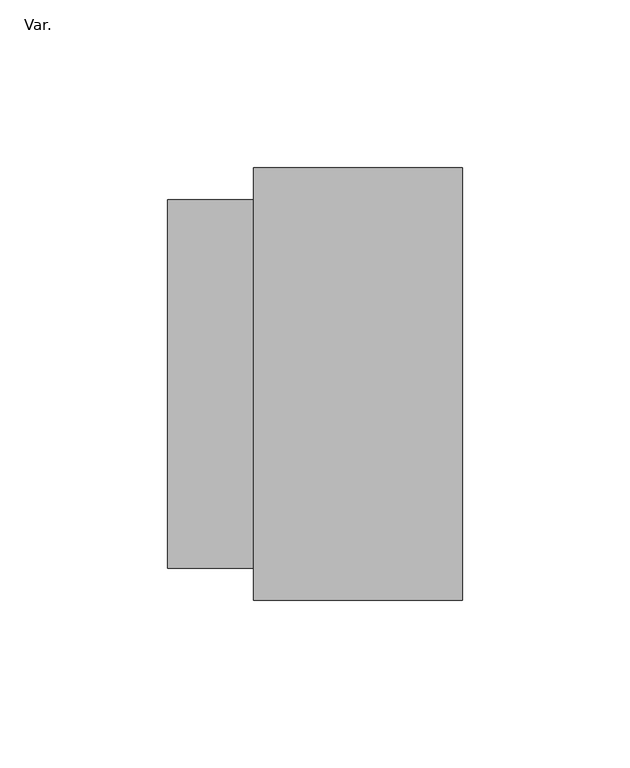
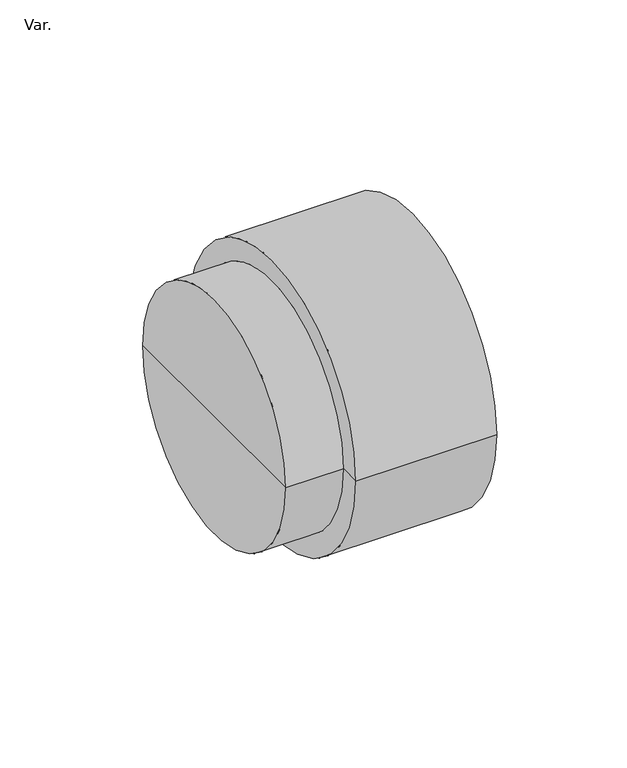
"""IFC4 building model written with IfcOpenShell, lengths in millimetres: pipe fitting geometry, PIF_HDPE floor lavatory socket_Akatherm : Var.."""

from ifc_helpers import new_model, si_unit, frame, origin, place, context, project, spatial, polyline, circle_curve, source, transform, mapped, element, save
from ifc_brep_helpers import plane_surface, cylinder_surface, revolved_surface, advanced_brep


def var_78c70b53(model_context):
    return source(origin(), model_context, "Body", "AdvancedBrep", [
        advanced_brep(
        [(-18.3446288, -64.5, 0.0), (-18.3446288, 64.5, 0.0), (44.0, 64.5, 0.0), (44.0, -64.5, 0.0), (-18.3446288, -55.0, 0.0), (-18.3446288, 55.0, 0.0), (-44.0, -55.0, 0.0), (-44.0, 55.0, 0.0), (-44.0, 0.0, 0.0), (-11.0, -60.0, 0.0), (-11.0, 60.0, 0.0), (-11.0, 0.0, 0.0), (44.0, -60.0, 0.0), (44.0, 60.0, 0.0)],
        [
            (0, 1, circle_curve(frame((-18.3446288, 0.0, 0.0), z_axis=(1.0, 0.0, 0.0), x_axis=(0.0, 1.0, 0.0)), 64.5)),
            (1, 2),
            (2, 3, circle_curve(frame((44.0, 0.0, 0.0), z_axis=(-1.0, 0.0, 0.0), x_axis=(0.0, 1.0, 0.0)), 64.5)),
            (3, 0),
            (1, 0, circle_curve(frame((-18.3446288, 0.0, 0.0), z_axis=(1.0, 0.0, 0.0), x_axis=(0.0, 1.0, 0.0)), 64.5)),
            (3, 2, circle_curve(frame((44.0, 0.0, 0.0), z_axis=(-1.0, 0.0, 0.0), x_axis=(0.0, 1.0, 0.0)), 64.5)),
            (4, 5, circle_curve(frame((-18.3446288, 0.0, 0.0), z_axis=(1.0, 0.0, 0.0), x_axis=(0.0, 1.0, 0.0)), 55.0)),
            (5, 1),
            (0, 4),
            (5, 4, circle_curve(frame((-18.3446288, 0.0, 0.0), z_axis=(1.0, 0.0, 0.0), x_axis=(0.0, 1.0, 0.0)), 55.0)),
            (6, 7, circle_curve(frame((-44.0, 0.0, 0.0), z_axis=(1.0, 0.0, 0.0), x_axis=(0.0, 1.0, 0.0)), 55.0)),
            (7, 5),
            (4, 6),
            (7, 6, circle_curve(frame((-44.0, 0.0, 0.0), z_axis=(1.0, 0.0, 0.0), x_axis=(0.0, 1.0, 0.0)), 55.0)),
            (8, 7),
            (6, 8),
            (9, 10, circle_curve(frame((-11.0, 0.0, 0.0), z_axis=(1.0, 0.0, 0.0), x_axis=(0.0, 1.0, 0.0)), 60.0)),
            (10, 11),
            (11, 9),
            (10, 9, circle_curve(frame((-11.0, 0.0, 0.0), z_axis=(1.0, 0.0, 0.0), x_axis=(0.0, 1.0, 0.0)), 60.0)),
            (12, 13, circle_curve(frame((44.0, 0.0, 0.0), z_axis=(1.0, 0.0, 0.0), x_axis=(0.0, 1.0, 0.0)), 60.0)),
            (13, 10),
            (9, 12),
            (13, 12, circle_curve(frame((44.0, 0.0, 0.0), z_axis=(1.0, 0.0, 0.0), x_axis=(0.0, 1.0, 0.0)), 60.0)),
            (2, 13),
            (12, 3),
        ],
        [
            cylinder_surface(frame((-66.4872572, 0.0, 0.0), z_axis=(-1.0, 0.0, 0.0), x_axis=(0.0, 1.0, 0.0)), 64.5),
            plane_surface(frame((-18.3446288, 0.0, 0.0), z_axis=(-1.0, 0.0, 0.0), x_axis=(0.0, 1.0, 0.0))),
            cylinder_surface(frame((-66.4872572, 0.0, 0.0), z_axis=(-1.0, 0.0, 0.0), x_axis=(0.0, 1.0, 0.0)), 55.0),
            plane_surface(frame((-44.0, 0.0, 0.0), z_axis=(-1.0, 0.0, 0.0), x_axis=(0.0, 1.0, 0.0))),
            plane_surface(frame((-11.0, 0.0, 0.0), z_axis=(1.0, 0.0, 0.0), x_axis=(0.0, 1.0, 0.0))),
            revolved_surface(polyline([(-11.0, 60.0, 0.0), (44.0, 60.0, 0.0)]), (-66.4872572, 0.0, 0.0), (-1.0, 0.0, 0.0)),
            plane_surface(frame((44.0, 0.0, 0.0), z_axis=(1.0, 0.0, 0.0), x_axis=(0.0, 1.0, 0.0))),
        ],
        [
            (0, [[1, 2, 3, 4]]),
            (0, [[5, -4, 6, -2]]),
            (1, [[7, 8, -1, 9]]),
            (1, [[10, -9, -5, -8]]),
            (2, [[11, 12, -7, 13]]),
            (2, [[14, -13, -10, -12]]),
            (3, [[15, -11, 16]]),
            (3, [[-16, -14, -15]]),
            (4, [[17, 18, 19]]),
            (4, [[20, -19, -18]]),
            (5, [[21, 22, -17, 23]]),
            (5, [[24, -23, -20, -22]]),
            (6, [[-3, 25, -21, 26]]),
            (6, [[-6, -26, -24, -25]]),
        ],
    ),
    ])


if __name__ == "__main__":
    model = new_model("IFC4")
    model_context = context("Model", 3, world=origin())
    ifc_project = project(units=[si_unit("LENGTHUNIT", "METRE", prefix="MILLI")], contexts=[model_context])
    site = spatial("IfcSite", under=ifc_project)
    building = spatial("IfcBuilding", under=site)
    placement = place(None, origin())
    var_shape = var_78c70b53(model_context)
    element("IfcPipeFitting", 1, ObjectType="PIF_HDPE floor lavatory socket_Akatherm : Var.", at=placement, inside=building, context=model_context, shape_type="MappedRepresentation", body=[
        mapped(var_shape, transform((0.0, 0.0, 0.0), x_axis=(1.0, 0.0, 0.0), y_axis=(0.0, 1.0, 0.0), z_axis=(0.0, 0.0, 1.0))),
    ])
    save(model, "model.ifc")
